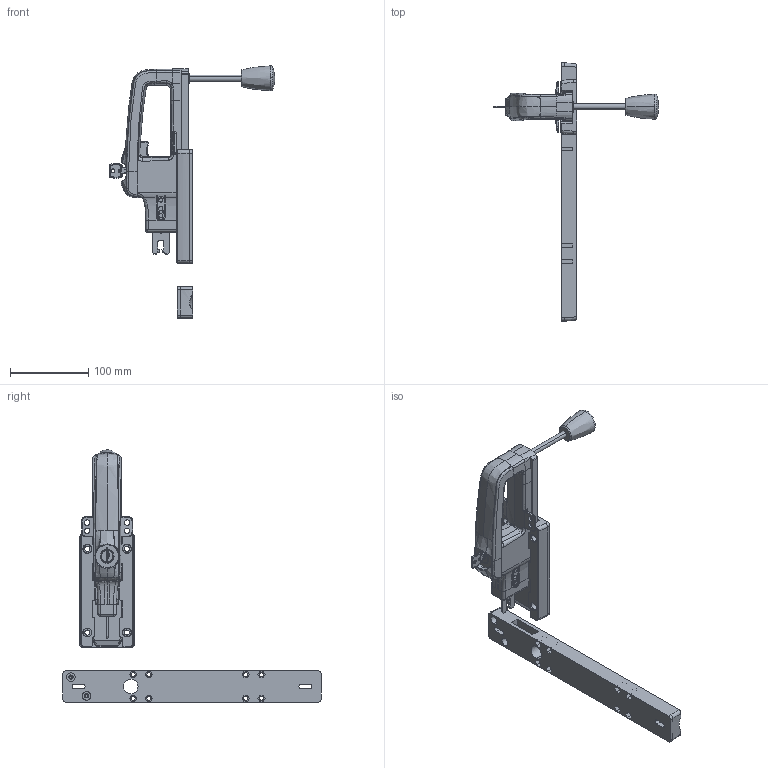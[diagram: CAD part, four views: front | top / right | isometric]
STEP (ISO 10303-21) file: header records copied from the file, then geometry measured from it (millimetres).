
FILE_DESCRIPTION (( 'STEP AP214' ), '1' );
FILE_NAME ('ZF_STEP_AN_YxZZ1P.step', '2024-05-09T11:51:39', ( '' ), ( '' ), 'SwSTEP 2.0', 'SolidWorks 2023', '' );
FILE_SCHEMA (( 'AUTOMOTIVE_DESIGN' ));
Length unit declared in the file: millimetre
Products named in the file (13): 8497_8498; ZF_STEP_AN_YxZZ1P; 32041_32041; 32100_32100; 33812_33812; Dado M8_M 8; 33804_3dweb_33804; RondellaØ8; 21110_21110; AN-Y_Maniglia FY con foro_3dweb_con pulsante; 21040_21179; AN-Y_Maniglia FY con foro_3dweb_con leva e pulsante; 33805_3dweb_33805
Assembly tree (13 placements, depth 3):
  ZF_STEP_AN_YxZZ1P
    AN-Y_Maniglia FY con foro_3dweb_con leva e pulsante
      8497_8498
      33812_33812  x2
      32100_32100
      RondellaØ8
      Dado M8_M 8
      32041_32041
      AN-Y_Maniglia FY con foro_3dweb_con pulsante
    21040_21179
    21110_21110
    33804_3dweb_33804
    33805_3dweb_33805
Bounding box: 211.46 x 330 x 322.49 mm (x, y, z)
Volume: 702988.3 mm3; surface area: 171215.8 mm2
Topology: 13 solids, 22 shells, 1223 faces, 3211 edges, 2044 vertices
Faces by surface type: plane 402, cylinder 386, bspline 352, torus 38, cone 36, sphere 9
Entity records: 60231 total; most frequent: CARTESIAN_POINT 32759, ORIENTED_EDGE 6346, DIRECTION 4601, EDGE_CURVE 3173, VERTEX_POINT 2030, AXIS2_PLACEMENT_3D 1603, LINE 1395, VECTOR 1395
